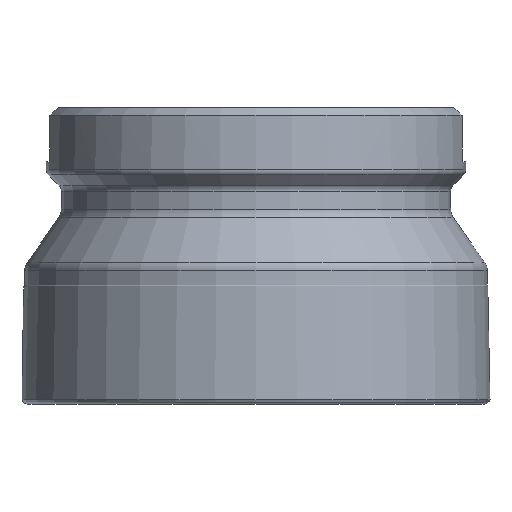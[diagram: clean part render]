
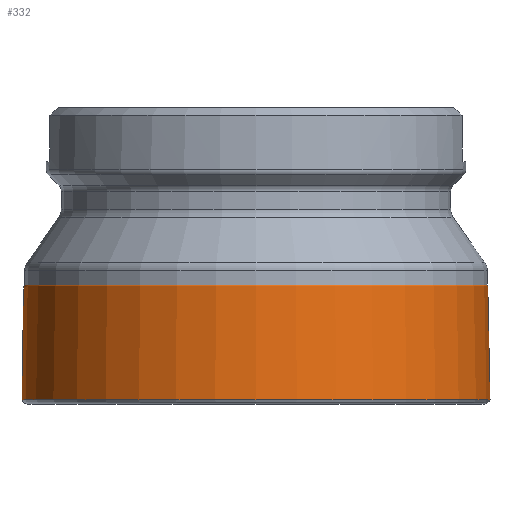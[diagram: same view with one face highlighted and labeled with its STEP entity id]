
A CAD part, front view. The second image highlights one B-rep face of the part: STEP entity #332.
In plain terms, the highlighted face is a revolution surface.
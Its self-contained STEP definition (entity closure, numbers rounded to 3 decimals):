
#64=SURFACE_OF_REVOLUTION('',#197,#70);
#70=AXIS1_PLACEMENT('',#1824,#1317);
#197=B_SPLINE_CURVE_WITH_KNOTS('',3,(#1809,#1810,#1811,#1812,#1813,#1814,
#1815,#1816,#1817,#1818,#1819,#1820,#1821,#1822,#1823),.UNSPECIFIED.,.F.,
 .F.,(4,2,1,2,2,2,2,4),(0.,0.5,0.75,0.812,
0.875,0.906,0.937,1.),.UNSPECIFIED.);
#265=FACE_BOUND('',#468,.T.);
#266=FACE_BOUND('',#469,.T.);
#332=ADVANCED_FACE('',(#265,#266),#64,.F.);
#468=EDGE_LOOP('',(#724));
#469=EDGE_LOOP('',(#725));
#724=ORIENTED_EDGE('',*,*,#914,.T.);
#725=ORIENTED_EDGE('',*,*,#915,.F.);
#810=VERTEX_POINT('',#1806);
#811=VERTEX_POINT('',#1808);
#914=EDGE_CURVE('',#810,#810,#966,.T.);
#915=EDGE_CURVE('',#811,#811,#967,.T.);
#966=CIRCLE('',#1074,28.283);
#967=CIRCLE('',#1075,30.655);
#1074=AXIS2_PLACEMENT_3D('',#1805,#1313,#1314);
#1075=AXIS2_PLACEMENT_3D('',#1807,#1315,#1316);
#1313=DIRECTION('',(0.,0.,-1.));
#1314=DIRECTION('',(-1.,0.,0.));
#1315=DIRECTION('',(0.,0.,-1.));
#1316=DIRECTION('',(-1.,0.,0.));
#1317=DIRECTION('',(0.,0.,-1.));
#1805=CARTESIAN_POINT('',(0.,0.,17.105));
#1806=CARTESIAN_POINT('',(-28.283,0.,17.105));
#1807=CARTESIAN_POINT('',(0.,0.,1.763));
#1808=CARTESIAN_POINT('',(-30.655,0.,1.763));
#1809=CARTESIAN_POINT('',(0.,30.655,1.763));
#1810=CARTESIAN_POINT('',(0.,30.605,4.625));
#1811=CARTESIAN_POINT('',(0.,30.566,7.487));
#1812=CARTESIAN_POINT('',(0.,30.503,11.78));
#1813=CARTESIAN_POINT('',(0.,30.477,13.569));
#1814=CARTESIAN_POINT('',(0.,30.451,15.358));
#1815=CARTESIAN_POINT('',(0.,30.441,16.074));
#1816=CARTESIAN_POINT('',(0.,30.499,16.463));
#1817=CARTESIAN_POINT('',(0.,30.202,16.915));
#1818=CARTESIAN_POINT('',(0.,30.05,17.03));
#1819=CARTESIAN_POINT('',(0.,29.706,17.139));
#1820=CARTESIAN_POINT('',(0.,29.524,17.12));
#1821=CARTESIAN_POINT('',(0.,28.992,17.113));
#1822=CARTESIAN_POINT('',(0.,28.637,17.109));
#1823=CARTESIAN_POINT('',(0.,28.283,17.105));
#1824=CARTESIAN_POINT('',(0.,0.,0.));
